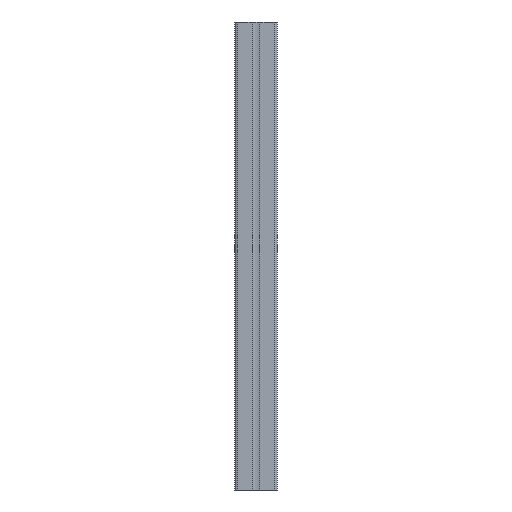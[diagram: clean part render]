
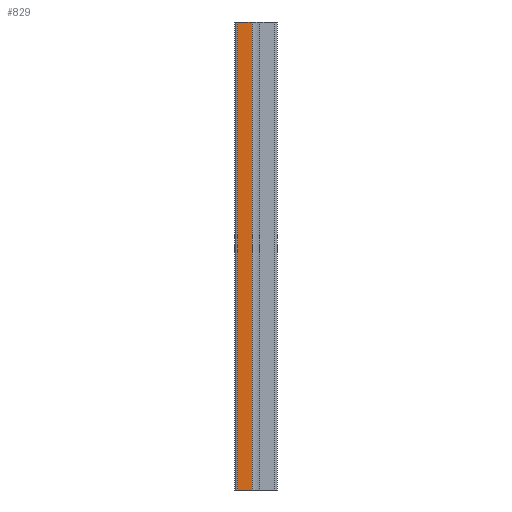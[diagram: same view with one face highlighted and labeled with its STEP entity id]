
A CAD part, left-side view. The second image highlights one B-rep face of the part: STEP entity #829.
In plain terms, the highlighted planar face has unit normal (-1, 0, 0).
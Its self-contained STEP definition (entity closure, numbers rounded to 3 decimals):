
#5 = EDGE_CURVE ( 'NONE', #1887, #628, #1350, .T. ) ;
#28 = LINE ( 'NONE', #41, #570 ) ;
#41 = CARTESIAN_POINT ( 'NONE',  ( -22.5, 19.5, 250. ) ) ;
#117 = CARTESIAN_POINT ( 'NONE',  ( -22.5, 4.2, 250. ) ) ;
#140 = ORIENTED_EDGE ( 'NONE', *, *, #2045, .T. ) ;
#224 = CARTESIAN_POINT ( 'NONE',  ( -22.5, 4.2, 250. ) ) ;
#353 = DIRECTION ( 'NONE',  ( 0., -1., 0. ) ) ;
#394 = LINE ( 'NONE', #2512, #2161 ) ;
#466 = DIRECTION ( 'NONE',  ( 0., 0., -1. ) ) ;
#521 = VECTOR ( 'NONE', #353, 1000. ) ;
#570 = VECTOR ( 'NONE', #466, 1000. ) ;
#628 = VERTEX_POINT ( 'NONE', #117 ) ;
#644 = ORIENTED_EDGE ( 'NONE', *, *, #2359, .T. ) ;
#652 = DIRECTION ( 'NONE',  ( 1., 0., 0. ) ) ;
#829 = ADVANCED_FACE ( 'NONE', ( #2596 ), #1318, .F. ) ;
#1156 = ORIENTED_EDGE ( 'NONE', *, *, #1963, .F. ) ;
#1255 = AXIS2_PLACEMENT_3D ( 'NONE', #224, #652, #1342 ) ;
#1318 = PLANE ( 'NONE',  #1255 ) ;
#1342 = DIRECTION ( 'NONE',  ( 0., 1., 0. ) ) ;
#1350 = LINE ( 'NONE', #1580, #2464 ) ;
#1494 = DIRECTION ( 'NONE',  ( 0., 0., -1. ) ) ;
#1564 = CARTESIAN_POINT ( 'NONE',  ( -22.5, 4.2, -250. ) ) ;
#1580 = CARTESIAN_POINT ( 'NONE',  ( -22.5, 4.2, 250. ) ) ;
#1659 = LINE ( 'NONE', #2723, #521 ) ;
#1675 = VERTEX_POINT ( 'NONE', #2341 ) ;
#1887 = VERTEX_POINT ( 'NONE', #1922 ) ;
#1922 = CARTESIAN_POINT ( 'NONE',  ( -22.5, 19.5, 250. ) ) ;
#1963 = EDGE_CURVE ( 'NONE', #628, #2706, #394, .T. ) ;
#2045 = EDGE_CURVE ( 'NONE', #1887, #1675, #28, .T. ) ;
#2161 = VECTOR ( 'NONE', #1494, 1000. ) ;
#2341 = CARTESIAN_POINT ( 'NONE',  ( -22.5, 19.5, -250. ) ) ;
#2359 = EDGE_CURVE ( 'NONE', #1675, #2706, #1659, .T. ) ;
#2464 = VECTOR ( 'NONE', #2622, 1000. ) ;
#2512 = CARTESIAN_POINT ( 'NONE',  ( -22.5, 4.2, 250. ) ) ;
#2534 = EDGE_LOOP ( 'NONE', ( #2543, #140, #644, #1156 ) ) ;
#2543 = ORIENTED_EDGE ( 'NONE', *, *, #5, .F. ) ;
#2596 = FACE_OUTER_BOUND ( 'NONE', #2534, .T. ) ;
#2622 = DIRECTION ( 'NONE',  ( 0., -1., 0. ) ) ;
#2706 = VERTEX_POINT ( 'NONE', #1564 ) ;
#2723 = CARTESIAN_POINT ( 'NONE',  ( -22.5, 4.2, -250. ) ) ;
